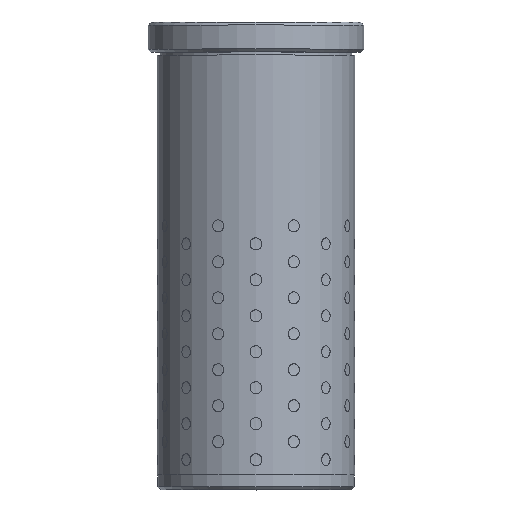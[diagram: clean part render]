
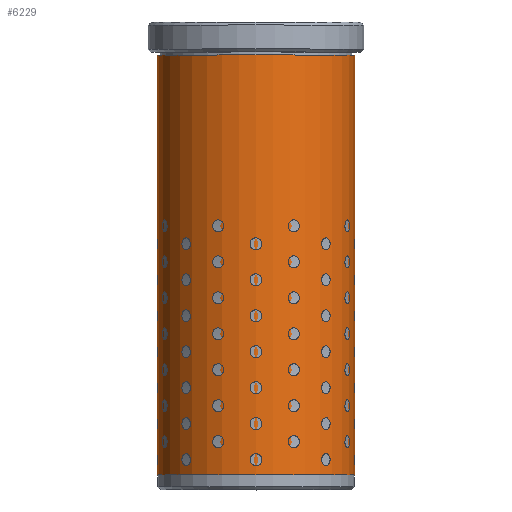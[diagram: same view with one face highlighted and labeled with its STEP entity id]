
A CAD part, top view. The second image highlights one B-rep face of the part: STEP entity #6229.
In plain terms, the highlighted cylindrical face has radius 33 mm (diameter 66 mm), a full revolution.
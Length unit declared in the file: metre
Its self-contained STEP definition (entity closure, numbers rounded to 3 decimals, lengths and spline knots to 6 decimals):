
#6229 = ADVANCED_FACE( '', ( #6646, #6647 ), #6648, .T. );
#6646 = FACE_OUTER_BOUND( '', #7587, .T. );
#6647 = FACE_OUTER_BOUND( '', #7588, .T. );
#6648 = CYLINDRICAL_SURFACE( '', #7589, 0.033 );
#7587 = EDGE_LOOP( '', ( #8544 ) );
#7588 = EDGE_LOOP( '', ( #8545 ) );
#7589 = AXIS2_PLACEMENT_3D( '', #8546, #8547, #8548 );
#8544 = ORIENTED_EDGE( '', *, *, #10252, .T. );
#8545 = ORIENTED_EDGE( '', *, *, #10251, .F. );
#8546 = CARTESIAN_POINT( '', ( 0., 0., 0. ) );
#8547 = DIRECTION( '', ( 0., 1., 0. ) );
#8548 = DIRECTION( '', ( 0., 0., -1. ) );
#10251 = EDGE_CURVE( '', #10530, #10530, #10531, .T. );
#10252 = EDGE_CURVE( '', #10532, #10532, #10533, .T. );
#10530 = VERTEX_POINT( '', #11072 );
#10531 = CIRCLE( '', #11073, 0.033 );
#10532 = VERTEX_POINT( '', #11074 );
#10533 = CIRCLE( '', #11075, 0.033 );
#11072 = CARTESIAN_POINT( '', ( 0., 0.005, -0.033 ) );
#11073 = AXIS2_PLACEMENT_3D( '', #25446, #25447, #25448 );
#11074 = CARTESIAN_POINT( '', ( 0., 0.145, -0.033 ) );
#11075 = AXIS2_PLACEMENT_3D( '', #25449, #25450, #25451 );
#25446 = CARTESIAN_POINT( '', ( 0., 0.005, 0. ) );
#25447 = DIRECTION( '', ( 0., -1., 0. ) );
#25448 = DIRECTION( '', ( 0., 0., -1. ) );
#25449 = CARTESIAN_POINT( '', ( 0., 0.145, 0. ) );
#25450 = DIRECTION( '', ( 0., -1., 0. ) );
#25451 = DIRECTION( '', ( 0., 0., -1. ) );
